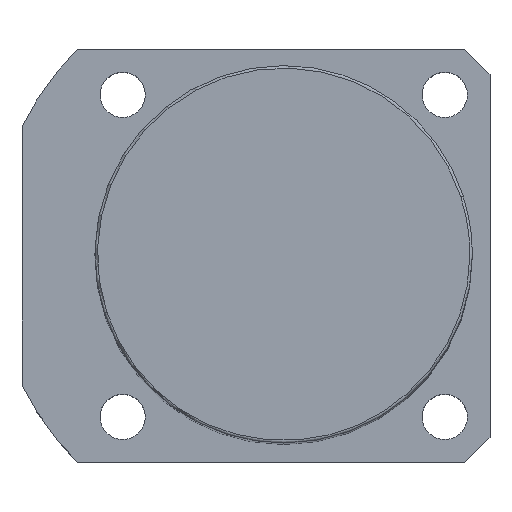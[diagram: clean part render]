
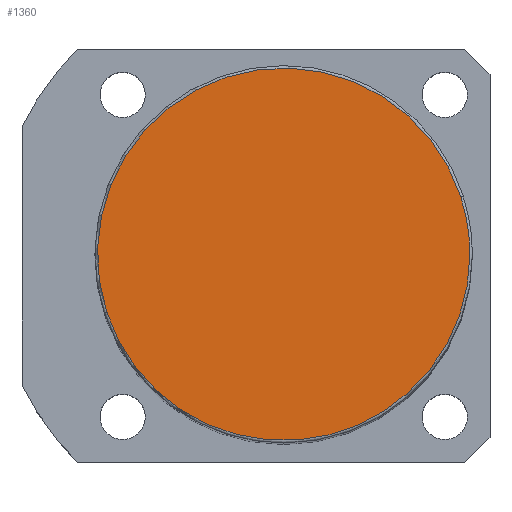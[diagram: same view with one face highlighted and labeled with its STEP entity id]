
A CAD part, top view. The second image highlights one B-rep face of the part: STEP entity #1360.
In plain terms, the highlighted planar face has unit normal (0, 0, 1).
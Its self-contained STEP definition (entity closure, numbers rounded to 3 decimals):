
#1293=CARTESIAN_POINT('',(35.189,11.434,193.0));
#1294=VERTEX_POINT('',#1293);
#1312=CARTESIAN_POINT('',(-35.189,-11.434,193.0));
#1313=VERTEX_POINT('',#1312);
#1321=CARTESIAN_POINT('',(0.0,0.0,193.0));
#1322=DIRECTION('',(0.0,0.0,1.0));
#1323=DIRECTION('',(1.0,0.0,0.0));
#1324=AXIS2_PLACEMENT_3D('',#1321,#1322,#1323);
#1325=CIRCLE('',#1324,37.0);
#1326=EDGE_CURVE('no 4018',#1294,#1313,#1325,.T.);
#1336=CARTESIAN_POINT('',(37.0,0.0,193.0));
#1337=VERTEX_POINT('',#1336);
#1338=CARTESIAN_POINT('',(0.0,0.0,193.0));
#1339=DIRECTION('',(0.0,0.0,1.0));
#1340=DIRECTION('',(1.0,0.0,0.0));
#1341=AXIS2_PLACEMENT_3D('',#1338,#1339,#1340);
#1342=CIRCLE('',#1341,37.0);
#1343=EDGE_CURVE('no 4027',#1337,#1294,#1342,.T.);
#1344=ORIENTED_EDGE('',*,*,#1343,.T.);
#1345=ORIENTED_EDGE('',*,*,#1326,.T.);
#1346=CARTESIAN_POINT('',(0.0,0.0,193.0));
#1347=DIRECTION('',(0.0,0.0,1.0));
#1348=DIRECTION('',(1.0,0.0,0.0));
#1349=AXIS2_PLACEMENT_3D('',#1346,#1347,#1348);
#1350=CIRCLE('',#1349,37.0);
#1351=EDGE_CURVE('no 4033',#1313,#1337,#1350,.T.);
#1352=ORIENTED_EDGE('',*,*,#1351,.T.);
#1353=EDGE_LOOP('',(#1344,#1345,#1352));
#1354=FACE_OUTER_BOUND('',#1353,.T.);
#1355=CARTESIAN_POINT('',(0.0,0.0,193.0));
#1356=DIRECTION('',(0.0,0.0,1.0));
#1357=DIRECTION('',(1.0,0.0,0.0));
#1358=AXIS2_PLACEMENT_3D('',#1355,#1356,#1357);
#1359=PLANE('',#1358);
#1360=ADVANCED_FACE('no 4020',(#1354),#1359,.T.);
